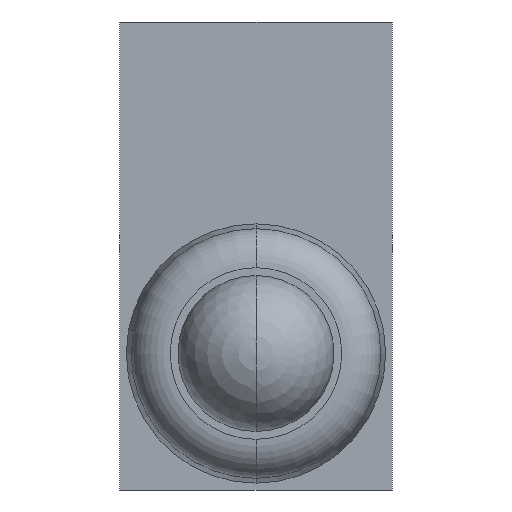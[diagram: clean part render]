
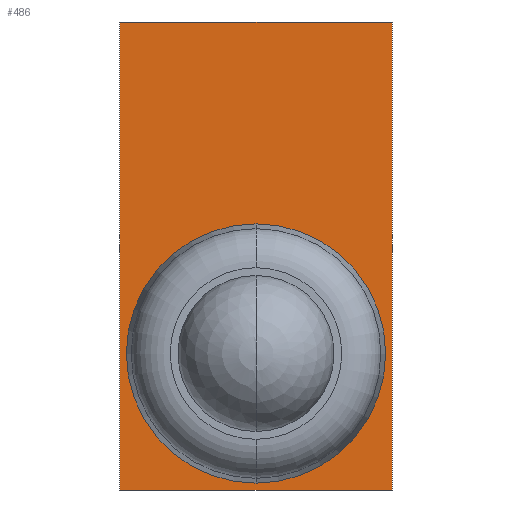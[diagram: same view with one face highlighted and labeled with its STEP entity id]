
A CAD part, left-side view. The second image highlights one B-rep face of the part: STEP entity #486.
In plain terms, the highlighted planar face has unit normal (-1, 0, 0).
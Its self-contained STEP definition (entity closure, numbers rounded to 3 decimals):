
#133=CARTESIAN_POINT('',(0.,0.,0.));
#134=DIRECTION('',(1.,0.,0.));
#135=DIRECTION('',(0.,0.,-1.));
#136=AXIS2_PLACEMENT_3D('',#133,#134,#135);
#138=DIRECTION('',(0.,-1.,0.));
#139=VECTOR('',#138,1.4);
#140=CARTESIAN_POINT('',(0.,0.7,1.7));
#141=LINE('',#140,#139);
#142=DIRECTION('',(0.,0.,-1.));
#143=VECTOR('',#142,2.4);
#144=CARTESIAN_POINT('',(0.,-0.7,1.7));
#145=LINE('',#144,#143);
#146=DIRECTION('',(0.,1.,0.));
#147=VECTOR('',#146,1.4);
#148=CARTESIAN_POINT('',(0.,-0.7,-0.7));
#149=LINE('',#148,#147);
#150=DIRECTION('',(0.,0.,1.));
#151=VECTOR('',#150,2.4);
#152=CARTESIAN_POINT('',(0.,0.7,-0.7));
#153=LINE('',#152,#151);
#186=CARTESIAN_POINT('',(0.,0.,0.));
#187=DIRECTION('',(1.,0.,0.));
#188=DIRECTION('',(0.,0.,1.));
#189=AXIS2_PLACEMENT_3D('',#186,#187,#188);
#233=CARTESIAN_POINT('',(0.,0.7,1.7));
#234=CARTESIAN_POINT('',(0.,-0.7,1.7));
#235=VERTEX_POINT('',#233);
#236=VERTEX_POINT('',#234);
#237=CARTESIAN_POINT('',(0.,-0.7,-0.7));
#238=VERTEX_POINT('',#237);
#239=CARTESIAN_POINT('',(0.,0.7,-0.7));
#240=VERTEX_POINT('',#239);
#249=CARTESIAN_POINT('',(0.,0.,-0.64));
#250=CARTESIAN_POINT('',(0.,0.,0.64));
#251=VERTEX_POINT('',#249);
#252=VERTEX_POINT('',#250);
#466=CARTESIAN_POINT('',(0.,0.,0.));
#467=DIRECTION('',(1.,0.,0.));
#468=DIRECTION('',(0.,-1.,0.));
#469=AXIS2_PLACEMENT_3D('',#466,#467,#468);
#470=PLANE('',#469);
#472=ORIENTED_EDGE('',*,*,#471,.T.);
#474=ORIENTED_EDGE('',*,*,#473,.T.);
#476=ORIENTED_EDGE('',*,*,#475,.T.);
#478=ORIENTED_EDGE('',*,*,#477,.T.);
#479=EDGE_LOOP('',(#472,#474,#476,#478));
#480=FACE_OUTER_BOUND('',#479,.F.);
#481=ORIENTED_EDGE('',*,*,#456,.F.);
#483=ORIENTED_EDGE('',*,*,#482,.F.);
#484=EDGE_LOOP('',(#481,#483));
#485=FACE_BOUND('',#484,.F.);
#486=ADVANCED_FACE('',(#480,#485),#470,.F.);
#137=CIRCLE('',#136,0.64);
#190=CIRCLE('',#189,0.64);
#456=EDGE_CURVE('',#251,#252,#137,.T.);
#471=EDGE_CURVE('',#235,#236,#141,.T.);
#473=EDGE_CURVE('',#236,#238,#145,.T.);
#475=EDGE_CURVE('',#238,#240,#149,.T.);
#477=EDGE_CURVE('',#240,#235,#153,.T.);
#482=EDGE_CURVE('',#252,#251,#190,.T.);
